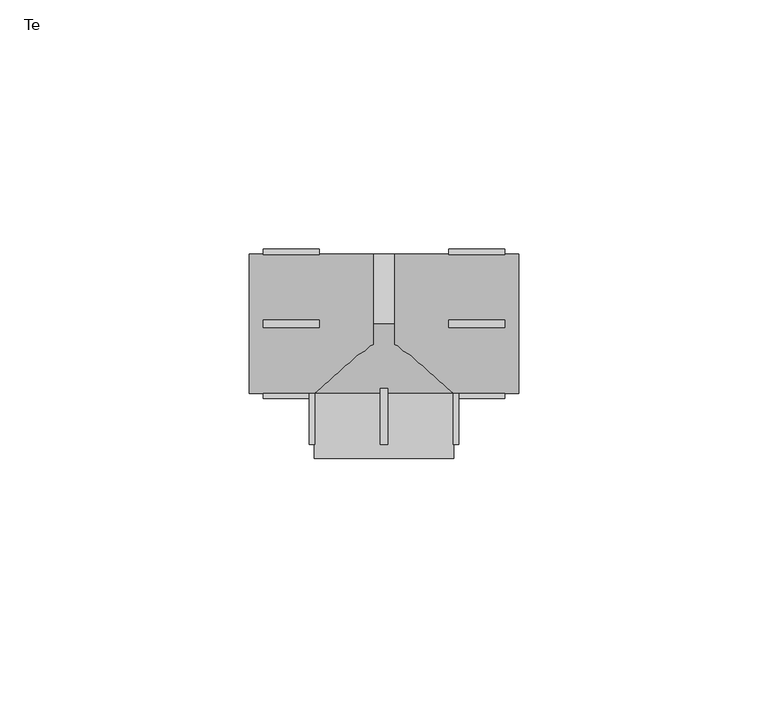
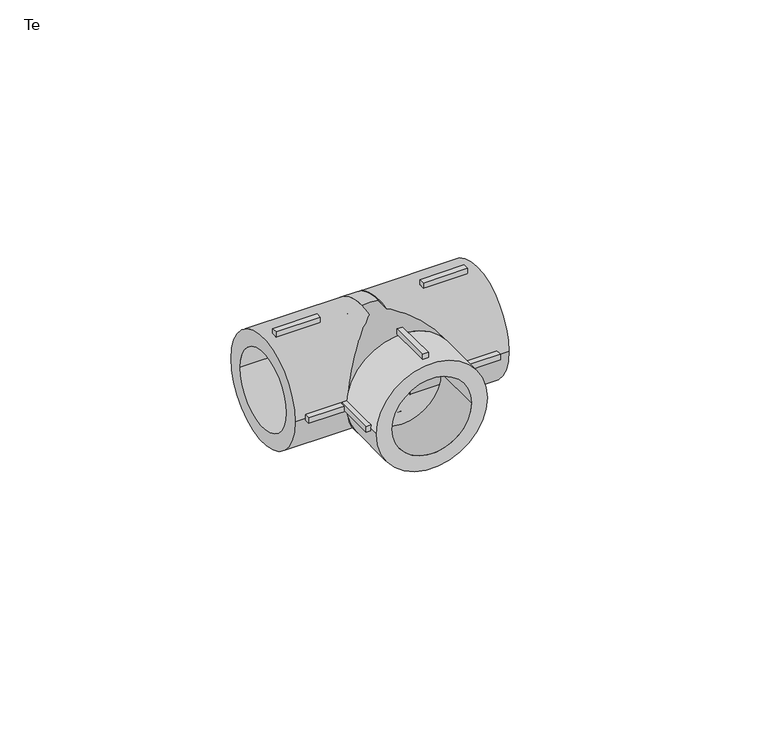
"""IFC4 building model written with IfcOpenShell, lengths in millimetres: pipe fitting geometry, EGB_VASEN_ PPR_Te WXR300_Te reducida WXR310 : Te."""

from ifc_helpers import new_model, si_unit, point, frame, origin, origin_2d, place, context, project, spatial, polyline, circle_curve, trimmed, segment, composite_curve, outline, extrude, source, transform, mapped, element, save


def te_121a14c8(model_context):
    return source(origin(), model_context, "Body", "SweptSolid", [
        extrude(outline(polyline([(-0.75, -13.0), (0.75, -13.0), (0.75, -24.2), (-0.75, -24.2), (-0.75, -13.0)])), frame((0.0, 0.0, 13.0), z_axis=(0.0, 0.0, 1.0), x_axis=(1.0, 0.0, 0.0)), (0.0, 0.0, 1.0), 2.0),
        extrude(outline(polyline([(-0.75, -13.0), (0.75, -13.0), (0.75, -24.2), (-0.75, -24.2), (-0.75, -13.0)])), frame((0.0, 0.0, -15.0), z_axis=(0.0, 0.0, 1.0), x_axis=(1.0, 0.0, 0.0)), (0.0, 0.0, 1.0), 2.0),
        extrude(outline(polyline([(13.0, -13.0), (15.0, -13.0), (15.0, -24.2), (13.0, -24.2), (13.0, -13.0)])), frame((0.0, 0.0, -0.75), z_axis=(0.0, 0.0, 1.0), x_axis=(1.0, 0.0, 0.0)), (0.0, 0.0, 1.0), 1.5),
        extrude(outline(polyline([(-15.0, -13.0), (-13.0, -13.0), (-13.0, -24.2), (-15.0, -24.2), (-15.0, -13.0)])), frame((0.0, 0.0, -0.75), z_axis=(0.0, 0.0, 1.0), x_axis=(1.0, 0.0, 0.0)), (0.0, 0.0, 1.0), 1.5),
        extrude(outline(polyline([(13.0, -0.75), (13.0, 0.75), (24.2, 0.75), (24.2, -0.75), (13.0, -0.75)])), frame((0.0, 0.0, 13.0), z_axis=(0.0, 0.0, 1.0), x_axis=(1.0, 0.0, 0.0)), (0.0, 0.0, 1.0), 2.0),
        extrude(outline(polyline([(13.0, -0.75), (13.0, 0.75), (24.2, 0.75), (24.2, -0.75), (13.0, -0.75)])), frame((0.0, 0.0, -15.0), z_axis=(0.0, 0.0, 1.0), x_axis=(1.0, 0.0, 0.0)), (0.0, 0.0, 1.0), 2.0),
        extrude(outline(polyline([(13.0, 13.0), (13.0, 15.0), (24.2, 15.0), (24.2, 13.0), (13.0, 13.0)])), frame((0.0, 0.0, -0.75), z_axis=(0.0, 0.0, 1.0), x_axis=(1.0, 0.0, 0.0)), (0.0, 0.0, 1.0), 1.5),
        extrude(outline(polyline([(13.0, -15.0), (13.0, -13.0), (24.2, -13.0), (24.2, -15.0), (13.0, -15.0)])), frame((0.0, 0.0, -0.75), z_axis=(0.0, 0.0, 1.0), x_axis=(1.0, 0.0, 0.0)), (0.0, 0.0, 1.0), 1.5),
        extrude(outline(polyline([(-13.0, 0.75), (-13.0, -0.75), (-24.2, -0.75), (-24.2, 0.75), (-13.0, 0.75)])), frame((0.0, 0.0, 13.0), z_axis=(0.0, 0.0, 1.0), x_axis=(1.0, 0.0, 0.0)), (0.0, 0.0, 1.0), 2.0),
        extrude(outline(polyline([(-13.0, 0.75), (-13.0, -0.75), (-24.2, -0.75), (-24.2, 0.75), (-13.0, 0.75)])), frame((0.0, 0.0, -15.0), z_axis=(0.0, 0.0, 1.0), x_axis=(1.0, 0.0, 0.0)), (0.0, 0.0, 1.0), 2.0),
        extrude(outline(polyline([(-13.0, 15.0), (-13.0, 13.0), (-24.2, 13.0), (-24.2, 15.0), (-13.0, 15.0)])), frame((0.0, 0.0, -0.75), z_axis=(0.0, 0.0, 1.0), x_axis=(1.0, 0.0, 0.0)), (0.0, 0.0, 1.0), 1.5),
        extrude(outline(polyline([(-13.0, -13.0), (-13.0, -15.0), (-24.2, -15.0), (-24.2, -13.0), (-13.0, -13.0)])), frame((0.0, 0.0, -0.75), z_axis=(0.0, 0.0, 1.0), x_axis=(1.0, 0.0, 0.0)), (0.0, 0.0, 1.0), 1.5),
        extrude(outline(composite_curve([segment(trimmed(circle_curve(origin_2d(), 14.0), [point((0.0, 14.0))], [point((0.0, -14.0))], False, "CARTESIAN"), True, "CONTINUOUS"), segment(trimmed(circle_curve(origin_2d(), 14.0), [point((0.0, -14.0))], [point((0.0, 14.0))], False, "CARTESIAN"), True, "CONTINUOUS")], self_intersect=False), holes=[composite_curve([segment(trimmed(circle_curve(origin_2d(), 10.0), [point((0.0, 10.0))], [point((0.0, -10.0))], True, "CARTESIAN"), True, "CONTINUOUS"), segment(trimmed(circle_curve(origin_2d(), 10.0), [point((0.0, -10.0))], [point((0.0, 10.0))], True, "CARTESIAN"), True, "CONTINUOUS")], self_intersect=False)]), frame((0.0, -27.0, 0.0), z_axis=(0.0, 1.0, 0.0), x_axis=(0.0, 0.0, 1.0)), (0.0, 0.0, 1.0), 13.0),
        extrude(outline(composite_curve([segment(trimmed(circle_curve(origin_2d(), 14.0), [point((-14.0, 0.0))], [point((14.0, 0.0))], False, "CARTESIAN"), True, "CONTINUOUS"), segment(trimmed(circle_curve(origin_2d(), 14.0), [point((14.0, 0.0))], [point((-14.0, 0.0))], False, "CARTESIAN"), True, "CONTINUOUS")], self_intersect=False), holes=[composite_curve([segment(trimmed(circle_curve(origin_2d(), 10.0), [point((-10.0, 0.0))], [point((10.0, 0.0))], True, "CARTESIAN"), True, "CONTINUOUS"), segment(trimmed(circle_curve(origin_2d(), 10.0), [point((10.0, 0.0))], [point((-10.0, 0.0))], True, "CARTESIAN"), True, "CONTINUOUS")], self_intersect=False)]), frame((2.16, 0.0, 0.0), z_axis=(1.0, 0.0, 0.0), x_axis=(0.0, 1.0, 0.0)), (0.0, 0.0, 1.0), 24.84),
        extrude(outline(composite_curve([segment(trimmed(circle_curve(origin_2d(), 14.0), [point((-14.0, 0.0))], [point((14.0, 0.0))], False, "CARTESIAN"), True, "CONTINUOUS"), segment(trimmed(circle_curve(origin_2d(), 14.0), [point((14.0, 0.0))], [point((-14.0, 0.0))], False, "CARTESIAN"), True, "CONTINUOUS")], self_intersect=False), holes=[composite_curve([segment(trimmed(circle_curve(origin_2d(), 10.0), [point((-10.0, 0.0))], [point((10.0, 0.0))], True, "CARTESIAN"), True, "CONTINUOUS"), segment(trimmed(circle_curve(origin_2d(), 10.0), [point((10.0, 0.0))], [point((-10.0, 0.0))], True, "CARTESIAN"), True, "CONTINUOUS")], self_intersect=False)]), frame((-27.0, 0.0, 0.0), z_axis=(1.0, 0.0, 0.0), x_axis=(0.0, 1.0, 0.0)), (0.0, 0.0, 1.0), 24.84),
        extrude(outline(composite_curve([segment(trimmed(circle_curve(origin_2d(), 14.0), [point((0.0, 14.0))], [point((0.0, -14.0))], False, "CARTESIAN"), True, "CONTINUOUS"), segment(trimmed(circle_curve(origin_2d(), 14.0), [point((0.0, -14.0))], [point((0.0, 14.0))], False, "CARTESIAN"), True, "CONTINUOUS")], self_intersect=False)), frame((0.0, -14.0, 0.0), z_axis=(0.0, 1.0, 0.0), x_axis=(0.0, 0.0, 1.0)), (0.0, 0.0, 1.0), 14.0),
        extrude(outline(composite_curve([segment(trimmed(circle_curve(origin_2d(), 14.0), [point((-14.0, 0.0))], [point((14.0, 0.0))], False, "CARTESIAN"), True, "CONTINUOUS"), segment(trimmed(circle_curve(origin_2d(), 14.0), [point((14.0, 0.0))], [point((-14.0, 0.0))], False, "CARTESIAN"), True, "CONTINUOUS")], self_intersect=False)), frame((-2.16, 0.0, 0.0), z_axis=(1.0, 0.0, 0.0), x_axis=(0.0, 1.0, 0.0)), (0.0, 0.0, 1.0), 4.32),
    ])


if __name__ == "__main__":
    model = new_model("IFC4")
    model_context = context("Model", 3, world=origin())
    ifc_project = project(units=[si_unit("LENGTHUNIT", "METRE", prefix="MILLI")], contexts=[model_context])
    site = spatial("IfcSite", under=ifc_project)
    building = spatial("IfcBuilding", under=site)
    placement = place(None, origin())
    te_shape = te_121a14c8(model_context)
    element("IfcPipeFitting", 1, ObjectType="EGB_VASEN_ PPR_Te WXR300_Te reducida WXR310 : Te", at=placement, inside=building, context=model_context, shape_type="MappedRepresentation", body=[
        mapped(te_shape, transform((0.0, 0.0, 0.0), x_axis=(1.0, 0.0, 0.0), y_axis=(0.0, 1.0, 0.0), z_axis=(0.0, 0.0, 1.0))),
    ])
    save(model, "model.ifc")
